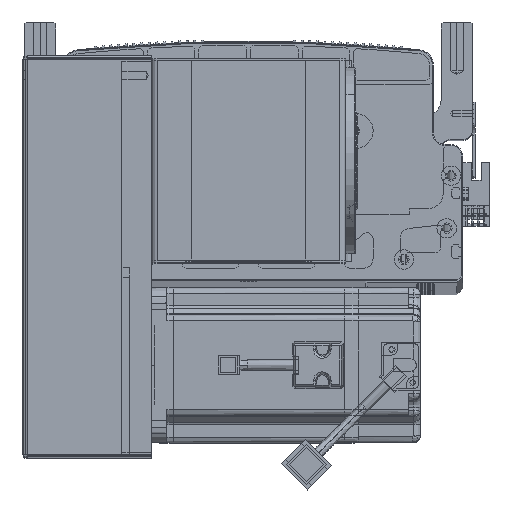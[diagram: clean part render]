
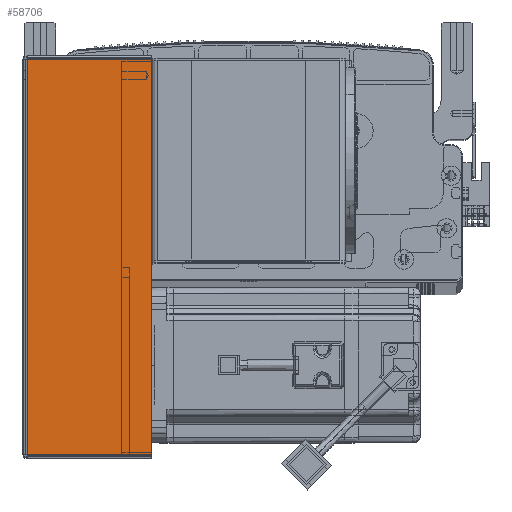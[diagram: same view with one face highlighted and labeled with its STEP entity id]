
A CAD part, top view. The second image highlights one B-rep face of the part: STEP entity #58706.
In plain terms, the highlighted planar face has unit normal (0, 0, 1) as drawn and (0, -1, 0) by its records, which use the part's own axes.
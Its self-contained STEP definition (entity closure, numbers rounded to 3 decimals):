
#1151 = VERTEX_POINT ( 'NONE', #75312 ) ;
#1947 = FACE_OUTER_BOUND ( 'NONE', #66007, .T. ) ;
#2233 = CARTESIAN_POINT ( 'NONE',  ( 64.5, -1.5, 0. ) ) ;
#3635 = LINE ( 'NONE', #2233, #50724 ) ;
#6946 = EDGE_CURVE ( 'NONE', #30844, #51917, #92439, .T. ) ;
#8899 = CARTESIAN_POINT ( 'NONE',  ( 0., -1.5, -203.293 ) ) ;
#9573 = DIRECTION ( 'NONE',  ( 1., 0., 0. ) ) ;
#9608 = VERTEX_POINT ( 'NONE', #72412 ) ;
#13298 = DIRECTION ( 'NONE',  ( 0., 0., 1. ) ) ;
#15937 = CARTESIAN_POINT ( 'NONE',  ( 0.737, -1.5, -0.707 ) ) ;
#18585 = AXIS2_PLACEMENT_3D ( 'NONE', #62213, #77760, #62879 ) ;
#19981 = ORIENTED_EDGE ( 'NONE', *, *, #34803, .F. ) ;
#27979 = CARTESIAN_POINT ( 'NONE',  ( 64.5, -1.5, -0.707 ) ) ;
#28480 = VECTOR ( 'NONE', #13298, 1000. ) ;
#29479 = VECTOR ( 'NONE', #48328, 1000. ) ;
#30844 = VERTEX_POINT ( 'NONE', #15937 ) ;
#30964 = LINE ( 'NONE', #99919, #28480 ) ;
#34803 = EDGE_CURVE ( 'NONE', #1151, #30844, #30964, .T. ) ;
#36600 = LINE ( 'NONE', #8899, #60021 ) ;
#39118 = PLANE ( 'NONE',  #18585 ) ;
#48328 = DIRECTION ( 'NONE',  ( 1., 0., 0. ) ) ;
#50724 = VECTOR ( 'NONE', #97484, 1000. ) ;
#51917 = VERTEX_POINT ( 'NONE', #27979 ) ;
#58706 = ADVANCED_FACE ( 'NONE', ( #1947 ), #39118, .F. ) ;
#60021 = VECTOR ( 'NONE', #9573, 1000. ) ;
#62213 = CARTESIAN_POINT ( 'NONE',  ( 0., -1.5, 0. ) ) ;
#62879 = DIRECTION ( 'NONE',  ( -1., 0., 0. ) ) ;
#66007 = EDGE_LOOP ( 'NONE', ( #19981, #85656, #93367, #95921 ) ) ;
#68565 = EDGE_CURVE ( 'NONE', #1151, #9608, #36600, .T. ) ;
#72412 = CARTESIAN_POINT ( 'NONE',  ( 64.5, -1.5, -203.293 ) ) ;
#75312 = CARTESIAN_POINT ( 'NONE',  ( 0.737, -1.5, -203.293 ) ) ;
#77760 = DIRECTION ( 'NONE',  ( 0., 1., 0. ) ) ;
#85656 = ORIENTED_EDGE ( 'NONE', *, *, #68565, .T. ) ;
#92439 = LINE ( 'NONE', #94833, #29479 ) ;
#93367 = ORIENTED_EDGE ( 'NONE', *, *, #99106, .T. ) ;
#94833 = CARTESIAN_POINT ( 'NONE',  ( 0., -1.5, -0.707 ) ) ;
#95921 = ORIENTED_EDGE ( 'NONE', *, *, #6946, .F. ) ;
#97484 = DIRECTION ( 'NONE',  ( 0., 0., 1. ) ) ;
#99106 = EDGE_CURVE ( 'NONE', #9608, #51917, #3635, .T. ) ;
#99919 = CARTESIAN_POINT ( 'NONE',  ( 0.737, -1.5, 0. ) ) ;
